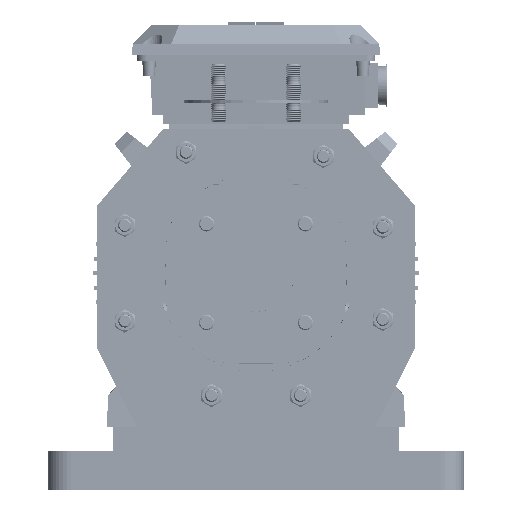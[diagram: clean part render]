
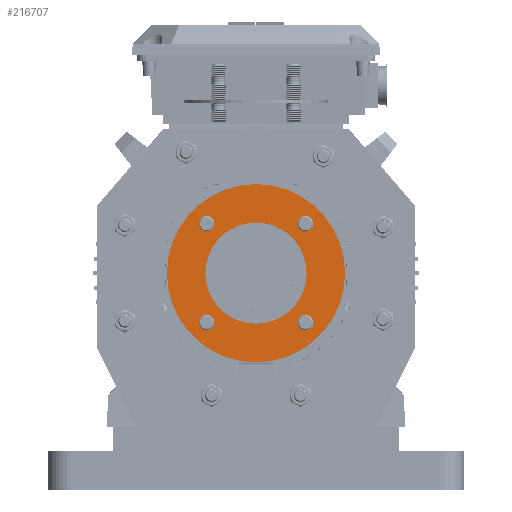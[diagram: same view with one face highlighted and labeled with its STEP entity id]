
A CAD part, front view. The second image highlights one B-rep face of the part: STEP entity #216707.
In plain terms, the highlighted planar face has unit normal (0, -1, 0).
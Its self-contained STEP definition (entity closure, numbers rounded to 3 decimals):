
#216259=CARTESIAN_POINT('',(59.265,-23.,61.265));
#216260=VERTEX_POINT('',#216259);
#216276=CARTESIAN_POINT('',(43.265,-23.,61.265));
#216277=VERTEX_POINT('',#216276);
#216284=CARTESIAN_POINT('',(51.265,-23.,61.265));
#216285=DIRECTION('',(0.0,-1.0,0.0));
#216286=DIRECTION('',(1.0,0.0,0.0));
#216287=AXIS2_PLACEMENT_3D('',#216284,#216285,#216286);
#216288=CIRCLE('',#216287,8.0);
#216289=EDGE_CURVE('',#216277,#216260,#216288,.T.);
#216301=CARTESIAN_POINT('',(-43.265,-23.,61.265));
#216302=VERTEX_POINT('',#216301);
#216318=CARTESIAN_POINT('',(-59.265,-23.,61.265));
#216319=VERTEX_POINT('',#216318);
#216326=CARTESIAN_POINT('',(-51.265,-23.,61.265));
#216327=DIRECTION('',(0.0,-1.0,0.0));
#216328=DIRECTION('',(1.0,0.0,0.0));
#216329=AXIS2_PLACEMENT_3D('',#216326,#216327,#216328);
#216330=CIRCLE('',#216329,8.0);
#216331=EDGE_CURVE('',#216319,#216302,#216330,.T.);
#216343=CARTESIAN_POINT('',(59.265,-23.,-41.265));
#216344=VERTEX_POINT('',#216343);
#216360=CARTESIAN_POINT('',(43.265,-23.,-41.265));
#216361=VERTEX_POINT('',#216360);
#216368=CARTESIAN_POINT('',(51.265,-23.,-41.265));
#216369=DIRECTION('',(0.0,-1.0,0.0));
#216370=DIRECTION('',(1.0,0.0,0.0));
#216371=AXIS2_PLACEMENT_3D('',#216368,#216369,#216370);
#216372=CIRCLE('',#216371,8.0);
#216373=EDGE_CURVE('',#216361,#216344,#216372,.T.);
#216385=CARTESIAN_POINT('',(-43.265,-23.,-41.265));
#216386=VERTEX_POINT('',#216385);
#216402=CARTESIAN_POINT('',(-59.265,-23.,-41.265));
#216403=VERTEX_POINT('',#216402);
#216410=CARTESIAN_POINT('',(-51.265,-23.,-41.265));
#216411=DIRECTION('',(0.0,-1.0,0.0));
#216412=DIRECTION('',(1.0,0.0,0.0));
#216413=AXIS2_PLACEMENT_3D('',#216410,#216411,#216412);
#216414=CIRCLE('',#216413,8.0);
#216415=EDGE_CURVE('',#216403,#216386,#216414,.T.);
#216427=CARTESIAN_POINT('',(52.5,-23.,10.0));
#216428=VERTEX_POINT('',#216427);
#216444=CARTESIAN_POINT('',(-52.5,-23.,10.));
#216445=VERTEX_POINT('',#216444);
#216452=CARTESIAN_POINT('',(0.0,-23.,10.0));
#216453=DIRECTION('',(0.0,-1.0,0.0));
#216454=DIRECTION('',(1.0,0.0,0.0));
#216455=AXIS2_PLACEMENT_3D('',#216452,#216453,#216454);
#216456=CIRCLE('',#216455,52.5);
#216457=EDGE_CURVE('',#216445,#216428,#216456,.T.);
#216469=CARTESIAN_POINT('',(92.5,-23.,10.0));
#216470=VERTEX_POINT('',#216469);
#216486=CARTESIAN_POINT('',(-92.5,-23.,10.));
#216487=VERTEX_POINT('',#216486);
#216494=CARTESIAN_POINT('',(0.0,-23.,10.0));
#216495=DIRECTION('',(0.0,1.0,0.0));
#216496=DIRECTION('',(1.0,0.0,0.0));
#216497=AXIS2_PLACEMENT_3D('',#216494,#216495,#216496);
#216498=CIRCLE('',#216497,92.5);
#216499=EDGE_CURVE('',#216487,#216470,#216498,.T.);
#216510=CARTESIAN_POINT('',(0.0,-23.,10.0));
#216511=DIRECTION('',(0.0,1.0,0.0));
#216512=DIRECTION('',(1.0,0.0,0.0));
#216513=AXIS2_PLACEMENT_3D('',#216510,#216511,#216512);
#216514=CIRCLE('',#216513,92.5);
#216515=EDGE_CURVE('',#216470,#216487,#216514,.T.);
#216534=CARTESIAN_POINT('',(0.0,-23.,10.0));
#216535=DIRECTION('',(0.0,-1.0,0.0));
#216536=DIRECTION('',(1.0,0.0,0.0));
#216537=AXIS2_PLACEMENT_3D('',#216534,#216535,#216536);
#216538=CIRCLE('',#216537,52.5);
#216539=EDGE_CURVE('',#216428,#216445,#216538,.T.);
#216558=CARTESIAN_POINT('',(-51.265,-23.,-41.265));
#216559=DIRECTION('',(0.0,-1.0,0.0));
#216560=DIRECTION('',(1.0,0.0,0.0));
#216561=AXIS2_PLACEMENT_3D('',#216558,#216559,#216560);
#216562=CIRCLE('',#216561,8.0);
#216563=EDGE_CURVE('',#216386,#216403,#216562,.T.);
#216582=CARTESIAN_POINT('',(51.265,-23.,-41.265));
#216583=DIRECTION('',(0.0,-1.0,0.0));
#216584=DIRECTION('',(1.0,0.0,0.0));
#216585=AXIS2_PLACEMENT_3D('',#216582,#216583,#216584);
#216586=CIRCLE('',#216585,8.0);
#216587=EDGE_CURVE('',#216344,#216361,#216586,.T.);
#216606=CARTESIAN_POINT('',(-51.265,-23.,61.265));
#216607=DIRECTION('',(0.0,-1.0,0.0));
#216608=DIRECTION('',(1.0,0.0,0.0));
#216609=AXIS2_PLACEMENT_3D('',#216606,#216607,#216608);
#216610=CIRCLE('',#216609,8.0);
#216611=EDGE_CURVE('',#216302,#216319,#216610,.T.);
#216630=CARTESIAN_POINT('',(51.265,-23.,61.265));
#216631=DIRECTION('',(0.0,-1.0,0.0));
#216632=DIRECTION('',(1.0,0.0,0.0));
#216633=AXIS2_PLACEMENT_3D('',#216630,#216631,#216632);
#216634=CIRCLE('',#216633,8.0);
#216635=EDGE_CURVE('',#216260,#216277,#216634,.T.);
#216678=CARTESIAN_POINT('',(8.409,-23.,10.));
#216679=DIRECTION('',(0.0,-1.0,0.0));
#216680=DIRECTION('',(1.0,0.0,0.0));
#216681=AXIS2_PLACEMENT_3D('',#216678,#216679,#216680);
#216682=PLANE('',#216681);
#216683=ORIENTED_EDGE('',*,*,#216515,.F.);
#216684=ORIENTED_EDGE('',*,*,#216499,.F.);
#216685=EDGE_LOOP('',(#216683,#216684));
#216686=FACE_OUTER_BOUND('',#216685,.T.);
#216687=ORIENTED_EDGE('',*,*,#216635,.F.);
#216688=ORIENTED_EDGE('',*,*,#216289,.F.);
#216689=EDGE_LOOP('',(#216687,#216688));
#216690=FACE_BOUND('',#216689,.T.);
#216691=ORIENTED_EDGE('',*,*,#216611,.F.);
#216692=ORIENTED_EDGE('',*,*,#216331,.F.);
#216693=EDGE_LOOP('',(#216691,#216692));
#216694=FACE_BOUND('',#216693,.T.);
#216695=ORIENTED_EDGE('',*,*,#216587,.F.);
#216696=ORIENTED_EDGE('',*,*,#216373,.F.);
#216697=EDGE_LOOP('',(#216695,#216696));
#216698=FACE_BOUND('',#216697,.T.);
#216699=ORIENTED_EDGE('',*,*,#216563,.F.);
#216700=ORIENTED_EDGE('',*,*,#216415,.F.);
#216701=EDGE_LOOP('',(#216699,#216700));
#216702=FACE_BOUND('',#216701,.T.);
#216703=ORIENTED_EDGE('',*,*,#216539,.F.);
#216704=ORIENTED_EDGE('',*,*,#216457,.F.);
#216705=EDGE_LOOP('',(#216703,#216704));
#216706=FACE_BOUND('',#216705,.T.);
#216707=ADVANCED_FACE('',(#216686,#216690,#216694,#216698,#216702,#216706),#216682,.T.);
